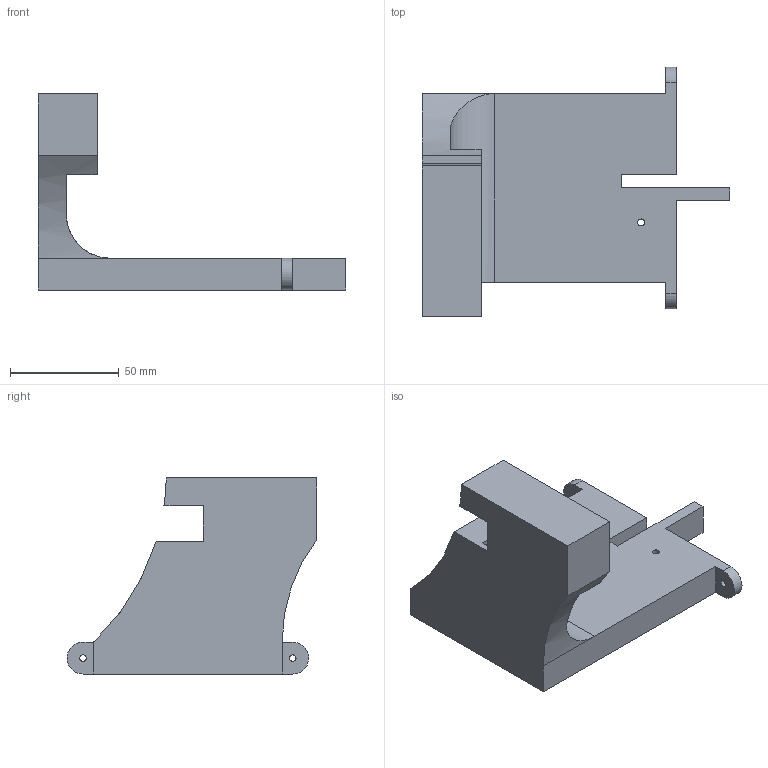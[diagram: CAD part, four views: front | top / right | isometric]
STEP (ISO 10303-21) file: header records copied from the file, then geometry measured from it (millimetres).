
FILE_DESCRIPTION(('STEP AP242 Edition 2','STEP AP242 Edition 2''CAx-IF Rec.Pracs.---Representation and Presentation of Product Manufacturing Information (PMI)---4.0---2014-10-13','STEP AP242 Edition 2''CAx-IF Rec.Pracs.---Representation and Presentation of Product Manufacturing Information (PMI)---4.0---2014-10-13''CAx-IF Rec.Pracs.---3D Tessellated Geometry---0.4---2014-09-14','STEP AP242 Edition 2''CAx-IF Rec.Pracs.---Representation and Presentation of Product Manufacturing Information (PMI)---4.0---2014-10-13''CAx-IF Rec.Pracs.---3D Tessellated Geometry---0.4---2014-09-14''2;1','STEP AP242 Edition 2''CAx-IF Rec.Pracs.---Representation and Presentation of Product Manufacturing Information (PMI)---4.0---2014-10-13''CAx-IF Rec.Pracs.---3D Tessellated Geometry---0.4---2014-09-14''2;1''CAx-IF Rec.Pracs.---User Defined Attributes---1.5---2016-08-15'),'2;1');
FILE_NAME('/vol/tmp/translate-4500610375692572013/Assembly 1 - Part 10.step','2026-02-26T04:21:28',(''),(''),'ST-DEVELOPER v20','ONSHAPE BY PTC INC, 1.211',' ');
FILE_SCHEMA(('AP242_MANAGED_MODEL_BASED_3D_ENGINEERING_MIM_LF { 1 0 10303 442 3 1 4 }'));
Length unit declared in the file: metre
Products named in the file (1): Part 10
Bounding box: 141.61 x 114.85 x 90.16 mm (x, y, z)
Volume: 238694.4 mm3; surface area: 46685.5 mm2
Topology: 1 solids, 1 shells, 40 faces, 113 edges, 75 vertices
Faces by surface type: plane 31, cylinder 9
Full cylindrical faces by diameter (mm): 3 x2, 3.2 x1
Entity records: 1311 total; most frequent: CARTESIAN_POINT 242, ORIENTED_EDGE 218, DIRECTION 207, EDGE_CURVE 109, LINE 89, VECTOR 89, VERTEX_POINT 74, AXIS2_PLACEMENT_3D 59
